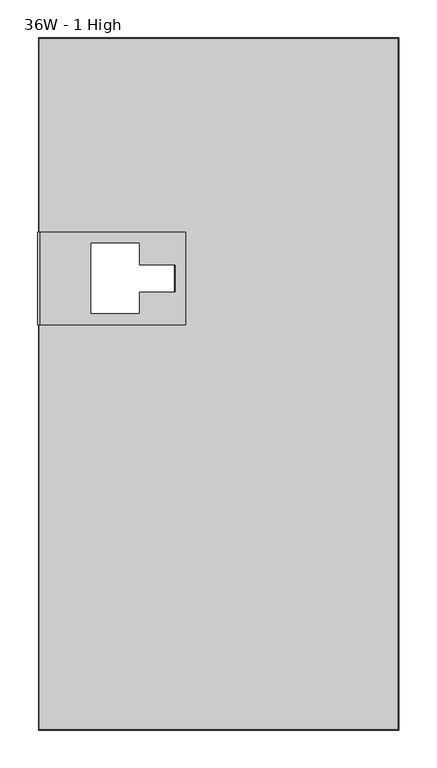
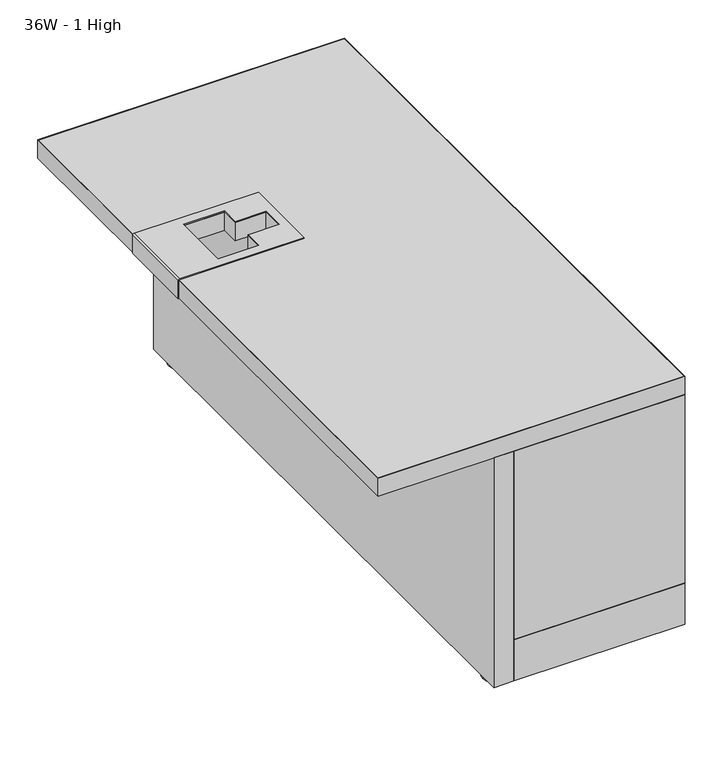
"""IFC4 building model written with IfcOpenShell, lengths in millimetres: furniture geometry, Steelcase - Migration SE - Storage - Universal - Open : 36W - 1 High."""

from ifc_helpers import new_model, si_unit, point, frame, frame_2d, origin, place, context, project, spatial, polyline, circle_curve, trimmed, segment, composite_curve, outline, extrude, source, transform, mapped, element, save
from ifc_brep_helpers import plane_surface, cylinder_surface, advanced_brep


def furniture_36w_1_high_e17e84c3(model_context):
    return source(origin(), model_context, "Body", "SolidModel", [
        extrude(outline(polyline([(4458.9108331, -0.9116042), (3984.6690206, -0.9116042), (3984.6690206, 911.5040208), (4458.9108331, 911.5040208), (4458.9108331, -0.9116042)]), holes=[polyline([(4116.4079662, 548.5399873), (4116.4079662, 577.1262093), (4164.2688049, 577.1262093), (4164.2688049, 612.2304323), (4116.4079662, 612.2304323), (4116.4079662, 640.8857623), (4053.2795614, 640.8857623), (4053.2795614, 548.5399873), (4116.4079662, 548.5399873)])]), frame((0.0, 0.0, 381.1549518), z_axis=(0.0, 0.0, 1.0), x_axis=(1.0, 0.0, 0.0)), (0.0, 0.0, 1.0), 29.6900482),
        advanced_brep(
        [(3983.6768331, 533.2999873, 381.1549518), (3983.6768331, 533.2999873, 410.845), (4177.8231222, 533.2999873, 410.845), (4177.8231222, 533.2999873, 412.65563), (3985.1754238, 533.2999873, 412.65563), (3982.6354238, 533.2999873, 410.11563), (3982.6354238, 533.2999873, 381.1549518), (3983.6768331, 656.0078371, 381.1549518), (3982.6354238, 656.0078371, 381.1549518), (3982.6354238, 656.0078371, 410.11563), (3985.1754238, 656.0078371, 412.65563), (4177.8231222, 656.0078371, 412.65563), (4177.8231222, 656.0078371, 410.845), (3983.6768331, 656.0078371, 410.845), (4053.2795614, 548.5399873, 412.65563), (4053.2795614, 640.8857623, 412.65563), (4116.4079662, 640.8857623, 412.65563), (4116.4079662, 612.2304323, 412.65563), (4164.2688049, 612.2304323, 412.65563), (4164.2688049, 577.1262093, 412.65563), (4116.4079662, 577.1262093, 412.65563), (4116.4079662, 548.5399873, 412.65563), (4116.4079662, 548.5399873, 410.845), (4116.4079662, 577.1262093, 410.845), (4164.2688049, 577.1262093, 410.845), (4164.2688049, 612.2304323, 410.845), (4116.4079662, 612.2304323, 410.845), (4116.4079662, 640.8857623, 410.845), (4053.2795614, 640.8857623, 410.845), (4053.2795614, 548.5399873, 410.845)],
        [
            (0, 1),
            (1, 2),
            (2, 3),
            (3, 4),
            (4, 5, circle_curve(frame((3985.1754238, 533.2999873, 410.11563), z_axis=(0.0, -1.0, 0.0), x_axis=(-1.0, 0.0, 0.0)), 2.54)),
            (5, 6),
            (6, 0),
            (7, 8),
            (8, 9),
            (9, 10, circle_curve(frame((3985.1754238, 656.0078371, 410.11563), z_axis=(0.0, 1.0, 0.0), x_axis=(-1.0, 0.0, 0.0)), 2.54)),
            (10, 11),
            (11, 12),
            (12, 13),
            (13, 7),
            (6, 8),
            (7, 0),
            (5, 9),
            (4, 10),
            (3, 11),
            (14, 15),
            (15, 16),
            (16, 17),
            (17, 18),
            (18, 19),
            (19, 20),
            (20, 21),
            (21, 14),
            (2, 12),
            (1, 13),
            (22, 23),
            (23, 24),
            (24, 25),
            (25, 26),
            (26, 27),
            (27, 28),
            (28, 29),
            (29, 22),
            (29, 14),
            (21, 22),
            (28, 15),
            (27, 16),
            (26, 17),
            (25, 18),
            (24, 19),
            (23, 20),
        ],
        [
            plane_surface(frame((3983.6768331, 533.2999873, 381.1549518), z_axis=(0.0, -1.0, 0.0), x_axis=(-1.0, 0.0, 0.0))),
            plane_surface(frame((3983.6768331, 656.0078371, 381.1549518), z_axis=(0.0, 1.0, 0.0), x_axis=(1.0, 0.0, 0.0))),
            plane_surface(frame((3983.6768331, 533.2999873, 381.1549518), z_axis=(0.0, 0.0, -1.0), x_axis=(0.0, 1.0, 0.0))),
            plane_surface(frame((3982.6354238, 533.2999873, 381.1549518), z_axis=(-1.0, 0.0, 0.0), x_axis=(0.0, 1.0, 0.0))),
            cylinder_surface(frame((3985.1754238, 656.0078371, 410.11563), z_axis=(0.0, -1.0, 0.0), x_axis=(-1.0, 0.0, 0.0)), 2.54),
            plane_surface(frame((3985.1754238, 533.2999873, 412.65563), z_axis=(0.0, 0.0, 1.0), x_axis=(0.0, 1.0, 0.0))),
            plane_surface(frame((4177.8231222, 533.2999873, 412.65563), z_axis=(1.0, 0.0, 0.0), x_axis=(0.0, 1.0, 0.0))),
            plane_surface(frame((4177.8231222, 533.2999873, 410.845), z_axis=(0.0, 0.0, -1.0), x_axis=(0.0, 1.0, 0.0))),
            plane_surface(frame((3983.6768331, 533.2999873, 410.845), z_axis=(1.0, 0.0, 0.0), x_axis=(0.0, 1.0, 0.0))),
            plane_surface(frame((4116.4079662, 548.5399873, 648.7380152), z_axis=(0.0, 1.0, 0.0), x_axis=(0.0, 0.0, -1.0))),
            plane_surface(frame((4053.2795614, 548.5399873, 648.7380152), z_axis=(1.0, 0.0, 0.0), x_axis=(0.0, 0.0, -1.0))),
            plane_surface(frame((4053.2795614, 640.8857623, 648.7380152), z_axis=(0.0, -1.0, 0.0), x_axis=(0.0, 0.0, -1.0))),
            plane_surface(frame((4116.4079662, 640.8857623, 648.7380152), z_axis=(-1.0, 0.0, 0.0), x_axis=(0.0, 0.0, -1.0))),
            plane_surface(frame((4116.4079662, 612.2304323, 648.7380152), z_axis=(0.0, -1.0, 0.0), x_axis=(0.0, 0.0, -1.0))),
            plane_surface(frame((4164.2688049, 612.2304323, 648.7380152), z_axis=(-1.0, 0.0, 0.0), x_axis=(0.0, 0.0, -1.0))),
            plane_surface(frame((4164.2688049, 577.1262093, 648.7380152), z_axis=(0.0, 1.0, 0.0), x_axis=(0.0, 0.0, -1.0))),
            plane_surface(frame((4116.4079662, 577.1262093, 648.7380152), z_axis=(-1.0, 0.0, 0.0), x_axis=(0.0, 0.0, -1.0))),
        ],
        [
            (0, [[1, 2, 3, 4, 5, 6, 7]]),
            (1, [[8, 9, 10, 11, 12, 13, 14]]),
            (2, [[15, -8, 16, -7]]),
            (3, [[17, -9, -15, -6]]),
            (4, [[18, -10, -17, -5]]),
            (5, [[19, -11, -18, -4], [20, 21, 22, 23, 24, 25, 26, 27]]),
            (6, [[28, -12, -19, -3]]),
            (7, [[29, -13, -28, -2], [30, 31, 32, 33, 34, 35, 36, 37]]),
            (8, [[-16, -14, -29, -1]]),
            (9, [[-37, 38, -27, 39]]),
            (10, [[-36, 40, -20, -38]]),
            (11, [[-35, 41, -21, -40]]),
            (12, [[-34, 42, -22, -41]]),
            (13, [[-33, 43, -23, -42]]),
            (14, [[-32, 44, -24, -43]]),
            (15, [[-31, 45, -25, -44]]),
            (16, [[-26, -45, -30, -39]]),
        ],
    ),
        extrude(outline(composite_curve([segment(trimmed(circle_curve(frame_2d((4185.6462881, 33.1991024)), 19.05), [point((4166.5962881, 33.1991024))], [point((4204.6962881, 33.1991024))], False, "CARTESIAN"), True, "CONTINUOUS"), segment(trimmed(circle_curve(frame_2d((4185.6462881, 33.1991024)), 19.05), [point((4204.6962881, 33.1991024))], [point((4166.5962881, 33.1991024))], False, "CARTESIAN"), True, "CONTINUOUS")], self_intersect=False)), frame((0.0, 0.0, -3.175), z_axis=(0.0, 0.0, 1.0), x_axis=(1.0, 0.0, 0.0)), (0.0, 0.0, 1.0), 4.2238198),
        extrude(outline(composite_curve([segment(trimmed(circle_curve(frame_2d((4439.8051931, 32.993083)), 19.05), [point((4420.7551931, 32.993083))], [point((4458.8551931, 32.993083))], False, "CARTESIAN"), True, "CONTINUOUS"), segment(trimmed(circle_curve(frame_2d((4439.8051931, 32.993083)), 19.05), [point((4458.8551931, 32.993083))], [point((4420.7551931, 32.993083))], False, "CARTESIAN"), True, "CONTINUOUS")], self_intersect=False)), frame((0.0, 0.0, -3.175), z_axis=(0.0, 0.0, 1.0), x_axis=(1.0, 0.0, 0.0)), (0.0, 0.0, 1.0), 4.2238198),
        extrude(outline(composite_curve([segment(trimmed(circle_curve(frame_2d((4440.3470205, 877.6100867)), 19.05), [point((4421.2970205, 877.6100867))], [point((4459.3970205, 877.6100867))], False, "CARTESIAN"), True, "CONTINUOUS"), segment(trimmed(circle_curve(frame_2d((4440.3470205, 877.6100867)), 19.05), [point((4459.3970205, 877.6100867))], [point((4421.2970205, 877.6100867))], False, "CARTESIAN"), True, "CONTINUOUS")], self_intersect=False)), frame((0.0, 0.0, -3.175), z_axis=(0.0, 0.0, 1.0), x_axis=(1.0, 0.0, 0.0)), (0.0, 0.0, 1.0), 4.2238198),
        extrude(outline(composite_curve([segment(trimmed(circle_curve(frame_2d((4186.1881155, 877.8161788)), 19.05), [point((4167.1381155, 877.8161788))], [point((4205.2381155, 877.8161788))], False, "CARTESIAN"), True, "CONTINUOUS"), segment(trimmed(circle_curve(frame_2d((4186.1881155, 877.8161788)), 19.05), [point((4205.2381155, 877.8161788))], [point((4167.1381155, 877.8161788))], False, "CARTESIAN"), True, "CONTINUOUS")], self_intersect=False)), frame((0.0, 0.0, -3.175), z_axis=(0.0, 0.0, 1.0), x_axis=(1.0, 0.0, 0.0)), (0.0, 0.0, 1.0), 4.2238198),
        extrude(outline(polyline([(4194.3243365, -1.9276042), (4163.4115987, -1.9276042), (4163.4115987, 912.4723958), (4194.3243365, 912.4723958), (4194.3243365, -1.9276042)])), frame((0.0, 0.0, 4.4139297), z_axis=(0.0, 0.0, 1.0), x_axis=(1.0, 0.0, 0.0)), (0.0, 0.0, 1.0), 376.741022),
        extrude(outline(polyline([(4194.3243365, -1.9276042), (4194.3243365, 912.4723958), (4459.9268331, 912.4723958), (4459.9268331, -1.9276042), (4194.3243365, -1.9276042)])), frame((0.0, 0.0, 4.4139297), z_axis=(0.0, 0.0, 1.0), x_axis=(1.0, 0.0, 0.0)), (0.0, 0.0, 1.0), 67.5949895),
        extrude(outline(polyline([(4194.3243365, 912.4723958), (4459.9268331, 912.4723958), (4459.9268331, 893.5019518), (4194.3243365, 893.5019518), (4194.3243365, 912.4723958)])), frame((0.0, 0.0, 72.0089192), z_axis=(0.0, 0.0, 1.0), x_axis=(1.0, 0.0, 0.0)), (0.0, 0.0, 1.0), 309.1460326),
        extrude(outline(polyline([(4194.3243365, -1.9276042), (4194.3243365, 17.1421639), (4459.9268331, 17.1421639), (4459.9268331, -1.9276042), (4194.3243365, -1.9276042)])), frame((0.0, 0.0, 72.0089192), z_axis=(0.0, 0.0, 1.0), x_axis=(1.0, 0.0, 0.0)), (0.0, 0.0, 1.0), 309.1460326),
        extrude(outline(polyline([(4459.9268331, -1.9276042), (3983.6768331, -1.9276042), (3983.6768331, 643.320927), (3983.6768331, 912.4723958), (4459.9268331, 912.4723958), (4459.9268331, -1.9276042)]), holes=[polyline([(3984.6690206, 911.5040208), (3984.6690206, 645.4800122), (3984.6690206, -0.9116042), (4458.9108331, -0.9116042), (4458.9108331, 911.5040208), (3984.6690206, 911.5040208)])]), frame((0.0, 0.0, 381.1549518), z_axis=(0.0, 0.0, 1.0), x_axis=(1.0, 0.0, 0.0)), (0.0, 0.0, 1.0), 29.6900482),
    ])


if __name__ == "__main__":
    model = new_model("IFC4")
    model_context = context("Model", 3, world=origin())
    ifc_project = project(units=[si_unit("LENGTHUNIT", "METRE", prefix="MILLI")], contexts=[model_context])
    site = spatial("IfcSite", under=ifc_project)
    building = spatial("IfcBuilding", under=site)
    placement = place(None, origin())
    furniture_36w_1_high_shape = furniture_36w_1_high_e17e84c3(model_context)
    element("IfcFurniture", 1, ObjectType="Steelcase - Migration SE - Storage - Universal - Open : 36W - 1 High", at=placement, inside=building, context=model_context, shape_type="MappedRepresentation", body=[
        mapped(furniture_36w_1_high_shape, transform((0.0, 0.0, 0.0), x_axis=(1.0, 0.0, 0.0), y_axis=(0.0, 1.0, 0.0), z_axis=(0.0, 0.0, 1.0))),
    ])
    save(model, "model.ifc")
